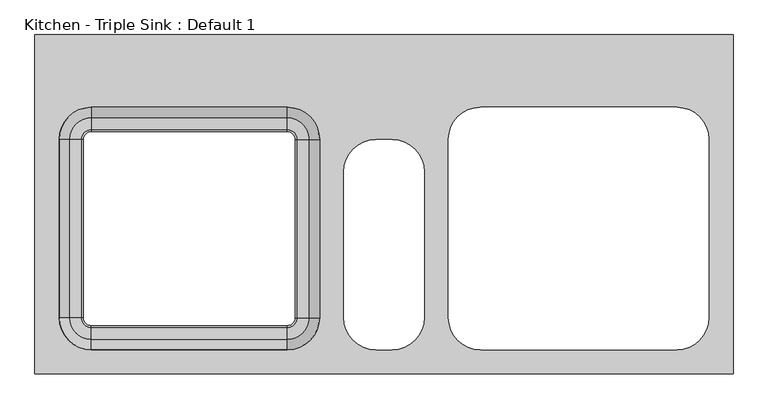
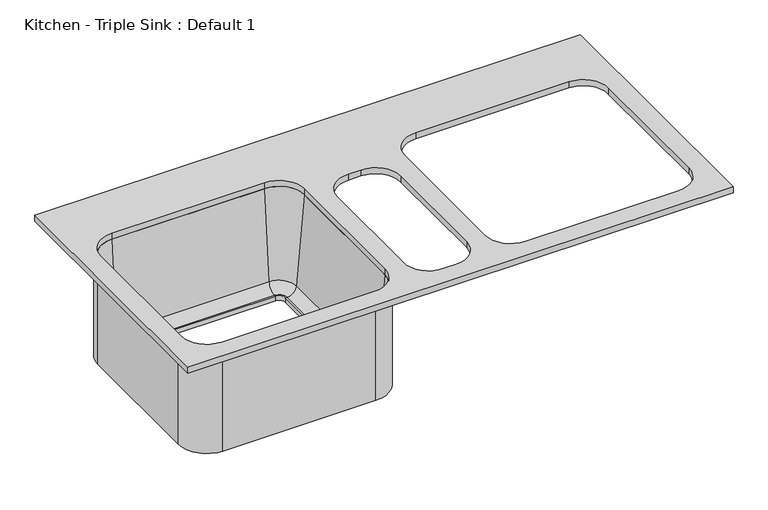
"""IFC4 building model written with IfcOpenShell, lengths in millimetres: flow terminal geometry, Kitchen - Triple Sink : Default 1."""

from ifc_helpers import new_model, si_unit, point, frame, frame_2d, origin, place, context, project, spatial, polyline, circle_curve, ellipse_curve, trimmed, segment, composite_curve, outline, extrude, source, transform, mapped, element, save
from ifc_brep_helpers import plane_surface, cylinder_surface, revolved_surface, advanced_brep


def kitchen_triple_sink_default_1_80febd71(model_context):
    return source(origin(), model_context, "Body", "SolidModel", [
        advanced_brep(
        [(-2.75, 102.4, 698.5), (-59.9, 159.55, 698.5), (-59.9, 159.55, 914.4), (-2.75, 102.4, 914.4), (-47.2, 102.4, 698.5), (-59.9, 115.1, 698.5), (-47.2, 102.4, 708.025), (-59.9, 115.1, 708.025), (-44.6115818, 102.4, 708.025), (-59.9, 117.6884182, 708.025), (-25.6340728, 102.4, 725.4146831), (-59.9, 136.6659272, 725.4146831), (-9.1, 102.4, 914.4), (-59.9, 153.2, 914.4), (-2.75, -178.6, 914.4), (-2.75, -178.6, 698.5), (-47.2, -178.6, 698.5), (-47.2, -178.6, 708.025), (-44.6115818, -178.6, 708.025), (-25.6340728, -178.6, 725.4146831), (-9.1, -178.6, 914.4), (-59.9, -235.75, 698.5), (-59.9, -235.75, 914.4), (-59.9, -191.3, 698.5), (-59.9, -191.3, 708.025), (-59.9, -193.8884182, 708.025), (-59.9, -212.8659272, 725.4146831), (-59.9, -229.4, 914.4), (-368.6, -235.75, 914.4), (-368.6, -235.75, 698.5), (-368.6, -191.3, 698.5), (-368.6, -191.3, 708.025), (-368.6, -193.8884182, 708.025), (-368.6, -212.8659272, 725.4146831), (-368.6, -229.4, 914.4), (-425.75, -178.6, 698.5), (-425.75, -178.6, 914.4), (-381.3, -178.6, 698.5), (-381.3, -178.6, 708.025), (-383.8884182, -178.6, 708.025), (-402.8659272, -178.6, 725.4146831), (-419.4, -178.6, 914.4), (-425.75, 102.4, 914.4), (-425.75, 102.4, 698.5), (-381.3, 102.4, 698.5), (-381.3, 102.4, 708.025), (-383.8884182, 102.4, 708.025), (-402.8659272, 102.4, 725.4146831), (-419.4, 102.4, 914.4), (-368.6, 159.55, 698.5), (-368.6, 159.55, 914.4), (-368.6, 115.1, 698.5), (-368.6, 115.1, 708.025), (-368.6, 117.6884182, 708.025), (-368.6, 136.6659272, 725.4146831), (-368.6, 153.2, 914.4)],
        [
            (0, 1, circle_curve(frame((-59.9, 102.4, 698.5), z_axis=(0.0, 0.0, 1.0), x_axis=(0.0, 1.0, 0.0)), 57.15)),
            (1, 2),
            (2, 3, circle_curve(frame((-59.9, 102.4, 914.4), z_axis=(0.0, 0.0, -1.0), x_axis=(0.0, 1.0, 0.0)), 57.15)),
            (3, 0),
            (4, 5, circle_curve(frame((-59.9, 102.4, 698.5), z_axis=(0.0, 0.0, 1.0), x_axis=(0.0, 1.0, 0.0)), 12.7)),
            (5, 1),
            (0, 4),
            (6, 7, circle_curve(frame((-59.9, 102.4, 708.025), z_axis=(0.0, 0.0, 1.0), x_axis=(0.0, 1.0, 0.0)), 12.7)),
            (7, 5),
            (4, 6),
            (8, 9, circle_curve(frame((-59.9, 102.4, 708.025), z_axis=(0.0, 0.0, 1.0), x_axis=(0.0, 1.0, 0.0)), 15.2884182)),
            (9, 7),
            (6, 8),
            (10, 11, circle_curve(frame((-59.9, 102.4, 725.4146831), z_axis=(0.0, 0.0, 1.0), x_axis=(0.0, 1.0, 0.0)), 34.2659272)),
            (11, 9, circle_curve(frame((-59.9, 117.6884182, 727.075), z_axis=(-1.0, 0.0, 0.0), x_axis=(0.0, 1.0, 0.0)), 19.05)),
            (8, 10, circle_curve(frame((-44.6115818, 102.4, 727.075), z_axis=(0.0, -1.0, 0.0), x_axis=(1.0, 0.0, 0.0)), 19.05)),
            (12, 13, circle_curve(frame((-59.9, 102.4, 914.4), z_axis=(0.0, 0.0, 1.0), x_axis=(0.0, 1.0, 0.0)), 50.8)),
            (13, 11),
            (10, 12),
            (2, 13),
            (12, 3),
            (3, 14),
            (14, 15),
            (15, 0),
            (15, 16),
            (16, 4),
            (16, 17),
            (17, 6),
            (17, 18),
            (18, 8),
            (18, 19, circle_curve(frame((-44.6115818, -178.6, 727.075), z_axis=(0.0, -1.0, 0.0), x_axis=(1.0, 0.0, 0.0)), 19.05)),
            (19, 10),
            (19, 20),
            (20, 12),
            (20, 14),
            (21, 15, circle_curve(frame((-59.9, -178.6, 698.5), z_axis=(0.0, 0.0, 1.0), x_axis=(1.0, 0.0, 0.0)), 57.15)),
            (14, 22, circle_curve(frame((-59.9, -178.6, 914.4), z_axis=(0.0, 0.0, -1.0), x_axis=(1.0, 0.0, 0.0)), 57.15)),
            (22, 21),
            (23, 16, circle_curve(frame((-59.9, -178.6, 698.5), z_axis=(0.0, 0.0, 1.0), x_axis=(1.0, 0.0, 0.0)), 12.7)),
            (21, 23),
            (24, 17, circle_curve(frame((-59.9, -178.6, 708.025), z_axis=(0.0, 0.0, 1.0), x_axis=(1.0, 0.0, 0.0)), 12.7)),
            (23, 24),
            (25, 18, circle_curve(frame((-59.9, -178.6, 708.025), z_axis=(0.0, 0.0, 1.0), x_axis=(1.0, 0.0, 0.0)), 15.2884182)),
            (24, 25),
            (26, 19, circle_curve(frame((-59.9, -178.6, 725.4146831), z_axis=(0.0, 0.0, 1.0), x_axis=(1.0, 0.0, 0.0)), 34.2659272)),
            (25, 26, circle_curve(frame((-59.9, -193.8884182, 727.075), z_axis=(-1.0, 0.0, 0.0), x_axis=(0.0, -1.0, 0.0)), 19.05)),
            (27, 20, circle_curve(frame((-59.9, -178.6, 914.4), z_axis=(0.0, 0.0, 1.0), x_axis=(1.0, 0.0, 0.0)), 50.8)),
            (26, 27),
            (27, 22),
            (22, 28),
            (28, 29),
            (29, 21),
            (29, 30),
            (30, 23),
            (30, 31),
            (31, 24),
            (31, 32),
            (32, 25),
            (32, 33, circle_curve(frame((-368.6, -193.8884182, 727.075), z_axis=(-1.0, 0.0, 0.0), x_axis=(0.0, -1.0, 0.0)), 19.05)),
            (33, 26),
            (33, 34),
            (34, 27),
            (34, 28),
            (35, 29, circle_curve(frame((-368.6, -178.6, 698.5), z_axis=(0.0, 0.0, 1.0), x_axis=(0.0, -1.0, 0.0)), 57.15)),
            (28, 36, circle_curve(frame((-368.6, -178.6, 914.4), z_axis=(0.0, 0.0, -1.0), x_axis=(0.0, -1.0, 0.0)), 57.15)),
            (36, 35),
            (37, 30, circle_curve(frame((-368.6, -178.6, 698.5), z_axis=(0.0, 0.0, 1.0), x_axis=(0.0, -1.0, 0.0)), 12.7)),
            (35, 37),
            (38, 31, circle_curve(frame((-368.6, -178.6, 708.025), z_axis=(0.0, 0.0, 1.0), x_axis=(0.0, -1.0, 0.0)), 12.7)),
            (37, 38),
            (39, 32, circle_curve(frame((-368.6, -178.6, 708.025), z_axis=(0.0, 0.0, 1.0), x_axis=(0.0, -1.0, 0.0)), 15.2884182)),
            (38, 39),
            (40, 33, circle_curve(frame((-368.6, -178.6, 725.4146831), z_axis=(0.0, 0.0, 1.0), x_axis=(0.0, -1.0, 0.0)), 34.2659272)),
            (39, 40, circle_curve(frame((-383.8884182, -178.6, 727.075), z_axis=(0.0, 1.0, 0.0), x_axis=(-1.0, 0.0, 0.0)), 19.05)),
            (41, 34, circle_curve(frame((-368.6, -178.6, 914.4), z_axis=(0.0, 0.0, 1.0), x_axis=(0.0, -1.0, 0.0)), 50.8)),
            (40, 41),
            (41, 36),
            (36, 42),
            (42, 43),
            (43, 35),
            (43, 44),
            (44, 37),
            (44, 45),
            (45, 38),
            (45, 46),
            (46, 39),
            (46, 47, circle_curve(frame((-383.8884182, 102.4, 727.075), z_axis=(0.0, 1.0, 0.0), x_axis=(-1.0, 0.0, 0.0)), 19.05)),
            (47, 40),
            (47, 48),
            (48, 41),
            (48, 42),
            (49, 43, circle_curve(frame((-368.6, 102.4, 698.5), z_axis=(0.0, 0.0, 1.0), x_axis=(-1.0, 0.0, 0.0)), 57.15)),
            (42, 50, circle_curve(frame((-368.6, 102.4, 914.4), z_axis=(0.0, 0.0, -1.0), x_axis=(-1.0, 0.0, 0.0)), 57.15)),
            (50, 49),
            (51, 44, circle_curve(frame((-368.6, 102.4, 698.5), z_axis=(0.0, 0.0, 1.0), x_axis=(-1.0, 0.0, 0.0)), 12.7)),
            (49, 51),
            (52, 45, circle_curve(frame((-368.6, 102.4, 708.025), z_axis=(0.0, 0.0, 1.0), x_axis=(-1.0, 0.0, 0.0)), 12.7)),
            (51, 52),
            (53, 46, circle_curve(frame((-368.6, 102.4, 708.025), z_axis=(0.0, 0.0, 1.0), x_axis=(-1.0, 0.0, 0.0)), 15.2884182)),
            (52, 53),
            (54, 47, circle_curve(frame((-368.6, 102.4, 725.4146831), z_axis=(0.0, 0.0, 1.0), x_axis=(-1.0, 0.0, 0.0)), 34.2659272)),
            (53, 54, circle_curve(frame((-368.6, 117.6884182, 727.075), z_axis=(1.0, 0.0, 0.0), x_axis=(0.0, 1.0, 0.0)), 19.05)),
            (55, 48, circle_curve(frame((-368.6, 102.4, 914.4), z_axis=(0.0, 0.0, 1.0), x_axis=(-1.0, 0.0, 0.0)), 50.8)),
            (54, 55),
            (55, 50),
            (50, 2),
            (1, 49),
            (5, 51),
            (7, 52),
            (9, 53),
            (11, 54),
            (13, 55),
        ],
        [
            cylinder_surface(frame((-59.9, 102.4, 14.4), z_axis=(0.0, 0.0, -1.0), x_axis=(0.0, 1.0, 0.0)), 57.15),
            plane_surface(frame((-59.9, 102.4, 698.5), z_axis=(0.0, 0.0, -1.0), x_axis=(0.0, 1.0, 0.0))),
            revolved_surface(polyline([(-59.9, 115.10000000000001, 698.5), (-59.9, 115.10000000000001, 708.025)]), (-59.9, 102.4, 14.4), (0.0, 0.0, -1.0)),
            plane_surface(frame((-59.9, 102.4, 708.025), z_axis=(0.0, 0.0, 1.0), x_axis=(0.0, 1.0, 0.0))),
            revolved_surface(trimmed(ellipse_curve(frame((-59.9, 117.6884182, 727.075), z_axis=(1.0, 0.0, 0.0), x_axis=(0.0, 1.0, 0.0)), 19.05, 19.05), [point((-59.9, 117.6884182, 708.025))], [point((-59.9, 136.6659272, 725.4146831))], True, "CARTESIAN"), (-59.9, 102.4, 14.4), (0.0, 0.0, -1.0)),
            revolved_surface(polyline([(-59.9, 136.6659272, 725.4146831), (-59.9, 153.2, 914.4)]), (-59.9, 102.4, 14.4), (0.0, 0.0, -1.0)),
            plane_surface(frame((-59.9, 102.4, 914.4), z_axis=(0.0, 0.0, 1.0), x_axis=(0.0, 1.0, 0.0))),
            plane_surface(frame((-2.75, 102.4, 914.4), z_axis=(1.0, 0.0, 0.0), x_axis=(0.0, -1.0, 0.0))),
            plane_surface(frame((-2.75, 102.4, 698.5), z_axis=(0.0, 0.0, -1.0), x_axis=(0.0, -1.0, 0.0))),
            plane_surface(frame((-47.2, 102.4, 698.5), z_axis=(-1.0, 0.0, 0.0), x_axis=(0.0, -1.0, 0.0))),
            plane_surface(frame((-47.2, 102.4, 708.025), z_axis=(0.0, 0.0, 1.0), x_axis=(0.0, -1.0, 0.0))),
            revolved_surface(polyline([(-25.561581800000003, -178.6, 727.075), (-25.561581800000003, 102.4, 727.075)]), (-44.6115818, 102.4, 727.075), (0.0, -1.0, 0.0)),
            plane_surface(frame((-25.6340728, 102.4, 725.4146831), z_axis=(-0.9961946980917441, 0.0, 0.08715574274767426), x_axis=(0.0, -1.0, 0.0))),
            plane_surface(frame((-9.1, 102.4, 914.4), z_axis=(0.0, 0.0, 1.0), x_axis=(0.0, -1.0, 0.0))),
            cylinder_surface(frame((-59.9, -178.6, 14.4), z_axis=(0.0, 0.0, -1.0), x_axis=(1.0, 0.0, 0.0)), 57.15),
            plane_surface(frame((-59.9, -178.6, 698.5), z_axis=(0.0, 0.0, -1.0), x_axis=(1.0, 0.0, 0.0))),
            revolved_surface(polyline([(-47.2, -178.6, 698.5), (-47.2, -178.6, 708.025)]), (-59.9, -178.6, 14.4), (0.0, 0.0, -1.0)),
            plane_surface(frame((-59.9, -178.6, 708.025), z_axis=(0.0, 0.0, 1.0), x_axis=(1.0, 0.0, 0.0))),
            revolved_surface(trimmed(ellipse_curve(frame((-44.6115818, -178.6, 727.075), z_axis=(0.0, -1.0, 0.0), x_axis=(1.0, 0.0, 0.0)), 19.05, 19.05), [point((-44.6115818, -178.6, 708.025))], [point((-25.6340728, -178.6, 725.4146831))], True, "CARTESIAN"), (-59.9, -178.6, 14.4), (0.0, 0.0, -1.0)),
            revolved_surface(polyline([(-25.6340728, -178.6, 725.4146831), (-9.1, -178.6, 914.4)]), (-59.9, -178.6, 14.4), (0.0, 0.0, -1.0)),
            plane_surface(frame((-59.9, -178.6, 914.4), z_axis=(0.0, 0.0, 1.0), x_axis=(1.0, 0.0, 0.0))),
            plane_surface(frame((-59.9, -235.75, 914.4), z_axis=(0.0, -1.0, 0.0), x_axis=(-1.0, 0.0, 0.0))),
            plane_surface(frame((-59.9, -235.75, 698.5), z_axis=(0.0, 0.0, -1.0), x_axis=(-1.0, 0.0, 0.0))),
            plane_surface(frame((-59.9, -191.3, 698.5), z_axis=(0.0, 1.0, 0.0), x_axis=(-1.0, 0.0, 0.0))),
            plane_surface(frame((-59.9, -191.3, 708.025), z_axis=(0.0, 0.0, 1.0), x_axis=(-1.0, 0.0, 0.0))),
            revolved_surface(polyline([(-368.6, -212.9384182, 727.075), (-59.9, -212.9384182, 727.075)]), (-59.9, -193.8884182, 727.075), (-1.0, 0.0, 0.0)),
            plane_surface(frame((-59.9, -212.8659272, 725.4146831), z_axis=(0.0, 0.9961946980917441, 0.08715574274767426), x_axis=(-1.0, 0.0, 0.0))),
            plane_surface(frame((-59.9, -229.4, 914.4), z_axis=(0.0, 0.0, 1.0), x_axis=(-1.0, 0.0, 0.0))),
            cylinder_surface(frame((-368.6, -178.6, 14.4), z_axis=(0.0, 0.0, -1.0), x_axis=(0.0, -1.0, 0.0)), 57.15),
            plane_surface(frame((-368.6, -178.6, 698.5), z_axis=(0.0, 0.0, -1.0), x_axis=(0.0, -1.0, 0.0))),
            revolved_surface(polyline([(-368.6, -191.29999999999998, 698.5), (-368.6, -191.29999999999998, 708.025)]), (-368.6, -178.6, 14.4), (0.0, 0.0, -1.0)),
            plane_surface(frame((-368.6, -178.6, 708.025), z_axis=(0.0, 0.0, 1.0), x_axis=(0.0, -1.0, 0.0))),
            revolved_surface(trimmed(ellipse_curve(frame((-368.6, -193.8884182, 727.075), z_axis=(-1.0, 0.0, 0.0), x_axis=(0.0, -1.0, 0.0)), 19.05, 19.05), [point((-368.6, -193.8884182, 708.025))], [point((-368.6, -212.8659272, 725.4146831))], True, "CARTESIAN"), (-368.6, -178.6, 14.4), (0.0, 0.0, -1.0)),
            revolved_surface(polyline([(-368.6, -212.8659272, 725.4146831), (-368.6, -229.4, 914.4)]), (-368.6, -178.6, 14.4), (0.0, 0.0, -1.0)),
            plane_surface(frame((-368.6, -178.6, 914.4), z_axis=(0.0, 0.0, 1.0), x_axis=(0.0, -1.0, 0.0))),
            plane_surface(frame((-425.75, -178.6, 914.4), z_axis=(-1.0, 0.0, 0.0), x_axis=(0.0, 1.0, 0.0))),
            plane_surface(frame((-425.75, -178.6, 698.5), z_axis=(0.0, 0.0, -1.0), x_axis=(0.0, 1.0, 0.0))),
            plane_surface(frame((-381.3, -178.6, 698.5), z_axis=(1.0, 0.0, 0.0), x_axis=(0.0, 1.0, 0.0))),
            plane_surface(frame((-381.3, -178.6, 708.025), z_axis=(0.0, 0.0, 1.0), x_axis=(0.0, 1.0, 0.0))),
            revolved_surface(polyline([(-402.9384182, 102.4, 727.075), (-402.9384182, -178.6, 727.075)]), (-383.8884182, -178.6, 727.075), (0.0, 1.0, 0.0)),
            plane_surface(frame((-402.8659272, -178.6, 725.4146831), z_axis=(0.9961946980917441, 0.0, 0.08715574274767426), x_axis=(0.0, 1.0, 0.0))),
            plane_surface(frame((-419.4, -178.6, 914.4), z_axis=(0.0, 0.0, 1.0), x_axis=(0.0, 1.0, 0.0))),
            cylinder_surface(frame((-368.6, 102.4, 14.4), z_axis=(0.0, 0.0, -1.0), x_axis=(-1.0, 0.0, 0.0)), 57.15),
            plane_surface(frame((-368.6, 102.4, 698.5), z_axis=(0.0, 0.0, -1.0), x_axis=(-1.0, 0.0, 0.0))),
            revolved_surface(polyline([(-381.3, 102.4, 698.5), (-381.3, 102.4, 708.025)]), (-368.6, 102.4, 14.4), (0.0, 0.0, -1.0)),
            plane_surface(frame((-368.6, 102.4, 708.025), z_axis=(0.0, 0.0, 1.0), x_axis=(-1.0, 0.0, 0.0))),
            revolved_surface(trimmed(ellipse_curve(frame((-383.8884182, 102.4, 727.075), z_axis=(0.0, 1.0, 0.0), x_axis=(-1.0, 0.0, 0.0)), 19.05, 19.05), [point((-383.8884182, 102.4, 708.025))], [point((-402.8659272, 102.4, 725.4146831))], True, "CARTESIAN"), (-368.6, 102.4, 14.4), (0.0, 0.0, -1.0)),
            revolved_surface(polyline([(-402.8659272, 102.4, 725.4146831), (-419.4, 102.4, 914.4)]), (-368.6, 102.4, 14.4), (0.0, 0.0, -1.0)),
            plane_surface(frame((-368.6, 102.4, 914.4), z_axis=(0.0, 0.0, 1.0), x_axis=(-1.0, 0.0, 0.0))),
            plane_surface(frame((-368.6, 159.55, 914.4), z_axis=(0.0, 1.0, 0.0), x_axis=(1.0, 0.0, 0.0))),
            plane_surface(frame((-368.6, 159.55, 698.5), z_axis=(0.0, 0.0, -1.0), x_axis=(1.0, 0.0, 0.0))),
            plane_surface(frame((-368.6, 115.1, 698.5), z_axis=(0.0, -1.0, 0.0), x_axis=(1.0, 0.0, 0.0))),
            plane_surface(frame((-368.6, 115.1, 708.025), z_axis=(0.0, 0.0, 1.0), x_axis=(1.0, 0.0, 0.0))),
            revolved_surface(polyline([(-59.89999999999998, 136.7384182, 727.075), (-368.6, 136.7384182, 727.075)]), (-368.6, 117.6884182, 727.075), (1.0, 0.0, 0.0)),
            plane_surface(frame((-368.6, 136.6659272, 725.4146831), z_axis=(0.0, -0.9961946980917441, 0.08715574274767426), x_axis=(1.0, 0.0, 0.0))),
            plane_surface(frame((-368.6, 153.2, 914.4), z_axis=(0.0, 0.0, 1.0), x_axis=(1.0, 0.0, 0.0))),
        ],
        [
            (0, [[1, 2, 3, 4]]),
            (1, [[5, 6, -1, 7]]),
            (2, [[8, 9, -5, 10]]),
            (3, [[11, 12, -8, 13]]),
            (4, [[14, 15, -11, 16]]),
            (5, [[17, 18, -14, 19]]),
            (6, [[-3, 20, -17, 21]]),
            (7, [[-4, 22, 23, 24]]),
            (8, [[-7, -24, 25, 26]]),
            (9, [[-10, -26, 27, 28]]),
            (10, [[-13, -28, 29, 30]]),
            (11, [[-16, -30, 31, 32]]),
            (12, [[-19, -32, 33, 34]]),
            (13, [[-21, -34, 35, -22]]),
            (14, [[36, -23, 37, 38]]),
            (15, [[39, -25, -36, 40]]),
            (16, [[41, -27, -39, 42]]),
            (17, [[43, -29, -41, 44]]),
            (18, [[45, -31, -43, 46]]),
            (19, [[47, -33, -45, 48]]),
            (20, [[-37, -35, -47, 49]]),
            (21, [[-38, 50, 51, 52]]),
            (22, [[-40, -52, 53, 54]]),
            (23, [[-42, -54, 55, 56]]),
            (24, [[-44, -56, 57, 58]]),
            (25, [[-46, -58, 59, 60]]),
            (26, [[-48, -60, 61, 62]]),
            (27, [[-49, -62, 63, -50]]),
            (28, [[64, -51, 65, 66]]),
            (29, [[67, -53, -64, 68]]),
            (30, [[69, -55, -67, 70]]),
            (31, [[71, -57, -69, 72]]),
            (32, [[73, -59, -71, 74]]),
            (33, [[75, -61, -73, 76]]),
            (34, [[-65, -63, -75, 77]]),
            (35, [[-66, 78, 79, 80]]),
            (36, [[-68, -80, 81, 82]]),
            (37, [[-70, -82, 83, 84]]),
            (38, [[-72, -84, 85, 86]]),
            (39, [[-74, -86, 87, 88]]),
            (40, [[-76, -88, 89, 90]]),
            (41, [[-77, -90, 91, -78]]),
            (42, [[92, -79, 93, 94]]),
            (43, [[95, -81, -92, 96]]),
            (44, [[97, -83, -95, 98]]),
            (45, [[99, -85, -97, 100]]),
            (46, [[101, -87, -99, 102]]),
            (47, [[103, -89, -101, 104]]),
            (48, [[-93, -91, -103, 105]]),
            (49, [[-94, 106, -2, 107]]),
            (50, [[-96, -107, -6, 108]]),
            (51, [[-98, -108, -9, 109]]),
            (52, [[-100, -109, -12, 110]]),
            (53, [[-102, -110, -15, 111]]),
            (54, [[-104, -111, -18, 112]]),
            (55, [[-105, -112, -20, -106]]),
        ],
    ),
        extrude(outline(polyline([(642.5, 267.5), (642.5, -267.5), (-457.5, -267.5), (-457.5, 267.5), (642.5, 267.5)]), holes=[composite_curve([segment(polyline([(-59.9, 153.2), (-368.6, 153.2)]), True, "CONTINUOUS"), segment(trimmed(circle_curve(frame_2d((-368.6, 102.4)), 50.8), [point((-368.6, 153.2))], [point((-419.4, 102.4))], True, "CARTESIAN"), True, "CONTINUOUS"), segment(polyline([(-419.4, 102.4), (-419.4, -178.6)]), True, "CONTINUOUS"), segment(trimmed(circle_curve(frame_2d((-368.6, -178.6)), 50.8), [point((-419.4, -178.6))], [point((-368.6, -229.4))], True, "CARTESIAN"), True, "CONTINUOUS"), segment(polyline([(-368.6, -229.4), (-59.9, -229.4)]), True, "CONTINUOUS"), segment(trimmed(circle_curve(frame_2d((-59.9, -178.6)), 50.8), [point((-59.9, -229.4))], [point((-9.1, -178.6))], True, "CARTESIAN"), True, "CONTINUOUS"), segment(polyline([(-9.1, -178.6), (-9.1, 102.4)]), True, "CONTINUOUS"), segment(trimmed(circle_curve(frame_2d((-59.9, 102.4)), 50.8), [point((-9.1, 102.4))], [point((-59.9, 153.2))], True, "CARTESIAN"), True, "CONTINUOUS")], self_intersect=False), composite_curve([segment(polyline([(244.9, -229.4), (553.6, -229.4)]), True, "CONTINUOUS"), segment(trimmed(circle_curve(frame_2d((553.6, -178.6)), 50.8), [point((553.6, -229.4))], [point((604.4, -178.6))], True, "CARTESIAN"), True, "CONTINUOUS"), segment(polyline([(604.4, -178.6), (604.4, 102.4)]), True, "CONTINUOUS"), segment(trimmed(circle_curve(frame_2d((553.6, 102.4)), 50.8), [point((604.4, 102.4))], [point((553.6, 153.2))], True, "CARTESIAN"), True, "CONTINUOUS"), segment(polyline([(553.6, 153.2), (244.9, 153.2)]), True, "CONTINUOUS"), segment(trimmed(circle_curve(frame_2d((244.9, 102.4)), 50.8), [point((244.9, 153.2))], [point((194.1, 102.4))], True, "CARTESIAN"), True, "CONTINUOUS"), segment(polyline([(194.1, 102.4), (194.1, -178.6)]), True, "CONTINUOUS"), segment(trimmed(circle_curve(frame_2d((244.9, -178.6)), 50.8), [point((194.1, -178.6))], [point((244.9, -229.4))], True, "CARTESIAN"), True, "CONTINUOUS")], self_intersect=False), composite_curve([segment(trimmed(circle_curve(frame_2d((105.2, -178.6)), 50.8), [point((105.2, -229.4))], [point((156.0, -178.6))], True, "CARTESIAN"), True, "CONTINUOUS"), segment(polyline([(156.0, -178.6), (156.0, 51.6)]), True, "CONTINUOUS"), segment(trimmed(circle_curve(frame_2d((105.2, 51.6)), 50.8), [point((156.0, 51.6))], [point((105.2, 102.4))], True, "CARTESIAN"), True, "CONTINUOUS"), segment(polyline([(105.2, 102.4), (79.8, 102.4)]), True, "CONTINUOUS"), segment(trimmed(circle_curve(frame_2d((79.8, 51.6)), 50.8), [point((79.8, 102.4))], [point((29.0, 51.6))], True, "CARTESIAN"), True, "CONTINUOUS"), segment(polyline([(29.0, 51.6), (29.0, -178.6)]), True, "CONTINUOUS"), segment(trimmed(circle_curve(frame_2d((79.8, -178.6)), 50.8), [point((29.0, -178.6))], [point((79.8, -229.4))], True, "CARTESIAN"), True, "CONTINUOUS"), segment(polyline([(79.8, -229.4), (105.2, -229.4)]), True, "CONTINUOUS")], self_intersect=False)]), frame((0.0, 0.0, 914.4), z_axis=(0.0, 0.0, 1.0), x_axis=(1.0, 0.0, 0.0)), (0.0, 0.0, 1.0), 12.7),
    ])


if __name__ == "__main__":
    model = new_model("IFC4")
    model_context = context("Model", 3, world=origin())
    ifc_project = project(units=[si_unit("LENGTHUNIT", "METRE", prefix="MILLI")], contexts=[model_context])
    site = spatial("IfcSite", under=ifc_project)
    building = spatial("IfcBuilding", under=site)
    placement = place(None, origin())
    kitchen_triple_sink_default_1_shape = kitchen_triple_sink_default_1_80febd71(model_context)
    element("IfcFlowTerminal", 1, ObjectType="Kitchen - Triple Sink : Default 1", at=placement, inside=building, context=model_context, shape_type="MappedRepresentation", body=[
        mapped(kitchen_triple_sink_default_1_shape, transform((0.0, 0.0, 0.0), x_axis=(1.0, 0.0, 0.0), y_axis=(0.0, 1.0, 0.0), z_axis=(0.0, 0.0, 1.0))),
    ])
    save(model, "model.ifc")
